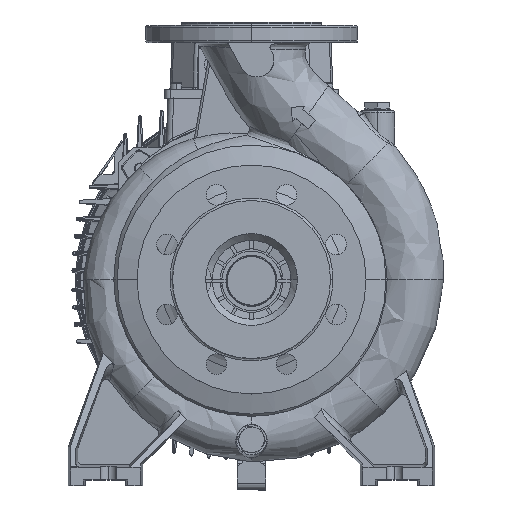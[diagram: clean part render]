
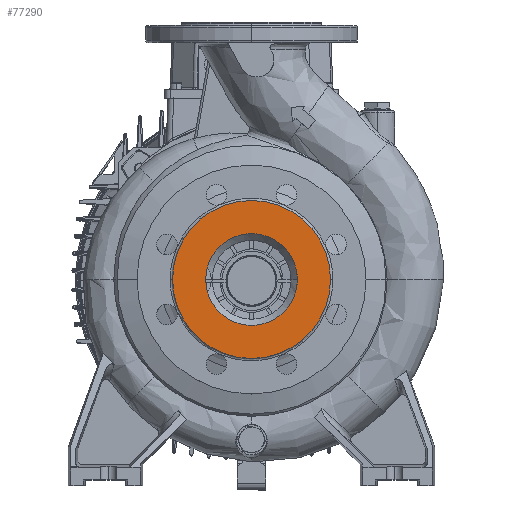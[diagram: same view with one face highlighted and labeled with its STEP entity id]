
A CAD part, top view. The second image highlights one B-rep face of the part: STEP entity #77290.
In plain terms, the highlighted planar face has unit normal (0, 0, 1).
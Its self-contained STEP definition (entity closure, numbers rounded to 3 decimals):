
#1772 = CARTESIAN_POINT ( 'NONE',  ( 0., 0., 100. ) ) ;
#6912 = CARTESIAN_POINT ( 'NONE',  ( -40.118, 0., 100. ) ) ;
#9808 = EDGE_CURVE ( 'NONE', #135744, #10214, #65705, .T. ) ;
#10214 = VERTEX_POINT ( 'NONE', #43144 ) ;
#10553 = EDGE_CURVE ( 'NONE', #10214, #135744, #36617, .T. ) ;
#12734 = EDGE_LOOP ( 'NONE', ( #45834, #103717 ) ) ;
#16120 = DIRECTION ( 'NONE',  ( 0., 0., -1. ) ) ;
#24843 = ORIENTED_EDGE ( 'NONE', *, *, #10553, .F. ) ;
#25412 = DIRECTION ( 'NONE',  ( -1., 0., 0. ) ) ;
#27611 = FACE_BOUND ( 'NONE', #71556, .T. ) ;
#34037 = DIRECTION ( 'NONE',  ( 0., 0., -1. ) ) ;
#36617 = CIRCLE ( 'NONE', #99933, 40.118 ) ;
#39196 = CIRCLE ( 'NONE', #117504, 69. ) ;
#41228 = PLANE ( 'NONE',  #67189 ) ;
#42203 = ORIENTED_EDGE ( 'NONE', *, *, #9808, .F. ) ;
#43144 = CARTESIAN_POINT ( 'NONE',  ( 40.118, 0., 100. ) ) ;
#44366 = VERTEX_POINT ( 'NONE', #104883 ) ;
#44481 = CARTESIAN_POINT ( 'NONE',  ( 0., 0., 100. ) ) ;
#45834 = ORIENTED_EDGE ( 'NONE', *, *, #81745, .F. ) ;
#53423 = CARTESIAN_POINT ( 'NONE',  ( 0., 40., 100. ) ) ;
#55881 = DIRECTION ( 'NONE',  ( 0., 0., -1. ) ) ;
#60236 = AXIS2_PLACEMENT_3D ( 'NONE', #44481, #55881, #67381 ) ;
#65705 = CIRCLE ( 'NONE', #126539, 40.118 ) ;
#67189 = AXIS2_PLACEMENT_3D ( 'NONE', #53423, #16120, #109135 ) ;
#67381 = DIRECTION ( 'NONE',  ( -1., 0., 0. ) ) ;
#67675 = EDGE_CURVE ( 'NONE', #137979, #44366, #39196, .T. ) ;
#69899 = DIRECTION ( 'NONE',  ( -1., 0., 0. ) ) ;
#71556 = EDGE_LOOP ( 'NONE', ( #42203, #24843 ) ) ;
#77290 = ADVANCED_FACE ( 'NONE', ( #111409, #27611 ), #41228, .F. ) ;
#81745 = EDGE_CURVE ( 'NONE', #44366, #137979, #135714, .T. ) ;
#93989 = DIRECTION ( 'NONE',  ( 0., 0., 1. ) ) ;
#99933 = AXIS2_PLACEMENT_3D ( 'NONE', #1772, #93989, #25412 ) ;
#103717 = ORIENTED_EDGE ( 'NONE', *, *, #67675, .F. ) ;
#104883 = CARTESIAN_POINT ( 'NONE',  ( -69., 0., 100. ) ) ;
#105004 = CARTESIAN_POINT ( 'NONE',  ( 0., 0., 100. ) ) ;
#108401 = CARTESIAN_POINT ( 'NONE',  ( 69., 0., 100. ) ) ;
#109135 = DIRECTION ( 'NONE',  ( -1., 0., 0. ) ) ;
#111409 = FACE_OUTER_BOUND ( 'NONE', #12734, .T. ) ;
#117504 = AXIS2_PLACEMENT_3D ( 'NONE', #127814, #34037, #69899 ) ;
#126539 = AXIS2_PLACEMENT_3D ( 'NONE', #105004, #150832, #137902 ) ;
#127814 = CARTESIAN_POINT ( 'NONE',  ( 0., 0., 100. ) ) ;
#135714 = CIRCLE ( 'NONE', #60236, 69. ) ;
#135744 = VERTEX_POINT ( 'NONE', #6912 ) ;
#137902 = DIRECTION ( 'NONE',  ( -1., 0., 0. ) ) ;
#137979 = VERTEX_POINT ( 'NONE', #108401 ) ;
#150832 = DIRECTION ( 'NONE',  ( 0., 0., 1. ) ) ;
